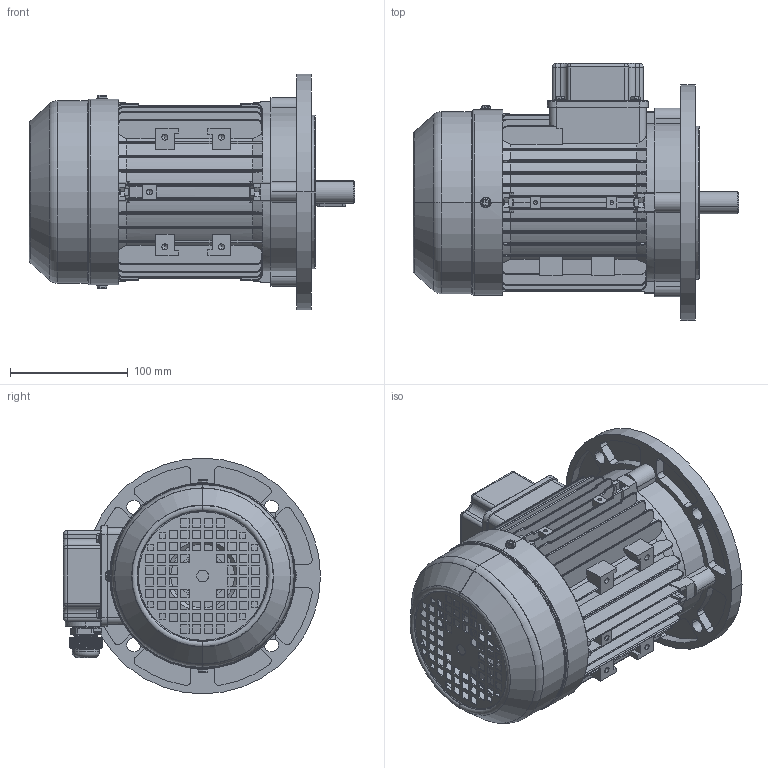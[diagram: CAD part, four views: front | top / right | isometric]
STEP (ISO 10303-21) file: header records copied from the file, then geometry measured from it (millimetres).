
FILE_DESCRIPTION (( 'STEP AP203' ), '1' );
FILE_NAME ('MSL80 assembly B5.STEP', '2017-11-26T09:40:24', ( 'user' ), ( 'china' ), 'SwSTEP 2.0', 'SolidWorks 2016', '' );
FILE_SCHEMA (( 'CONFIG_CONTROL_DESIGN' ));
Length unit declared in the file: millimetre
Products named in the file (13): M80傷裔B5; GB-T 70.1-2000 M5_20; M20 cable gland; MSL80-儂褲; GB-T 5780-2000 M5_020; MS80 綴裔瑞欶郪磁; M80瑞欶_076; M80傷裔B3_Post; M80-Shaft drive end; GB-T 29.2-1988 M4鞠褒坋趼湍菜_05; MSL80-90堤盄碟蚾饜; MSL80 assembly B5; MSL80-90堤盄碟_MSL80-90
Assembly tree (24 placements, depth 3):
  MSL80 assembly B5
    MSL80-儂褲
    MS80 綴裔瑞欶郪磁
      M80傷裔B3_Post
      M80瑞欶_076
      GB-T 29.2-1988 M4鞠褒坋趼湍菜_05  x3
    MSL80-90堤盄碟蚾饜
      MSL80-90堤盄碟_MSL80-90
      GB-T 29.2-1988 M4鞠褒坋趼湍菜_05  x4
      M20 cable gland
    GB-T 70.1-2000 M5_20  x4
    GB-T 5780-2000 M5_020  x4
    M80-Shaft drive end
    M80傷裔B5
Bounding box: 276 x 218 x 200 mm (x, y, z)
Volume: 804779.9 mm3; surface area: 550482.9 mm2
Topology: 22 solids, 22 shells, 3027 faces, 7752 edges, 4813 vertices
Faces by surface type: plane 1405, cylinder 996, cone 223, bspline 220, torus 175, sphere 8
Entity records: 104501 total; most frequent: CARTESIAN_POINT 40053, ORIENTED_EDGE 13684, DIRECTION 12384, EDGE_CURVE 6842, AXIS2_PLACEMENT_3D 4339, VERTEX_POINT 4336, LINE 3706, VECTOR 3706
